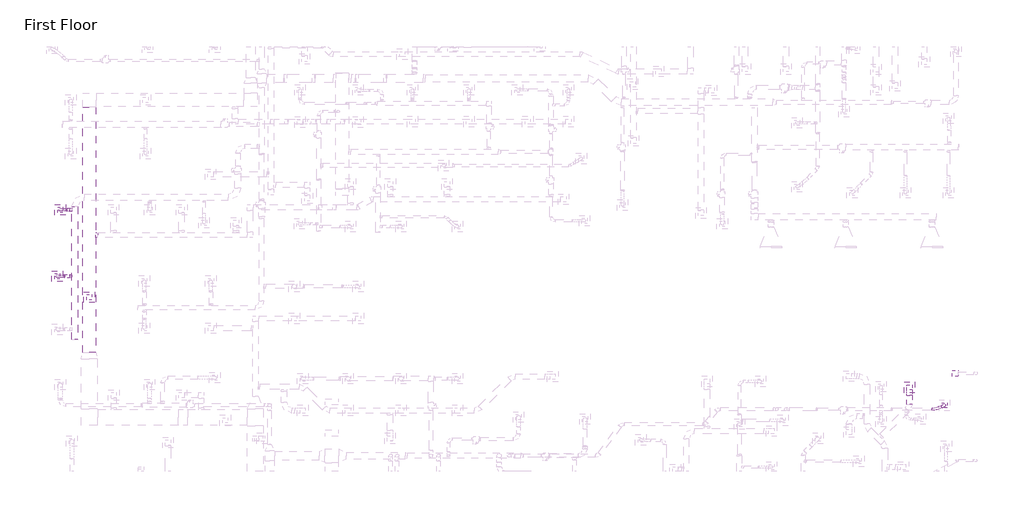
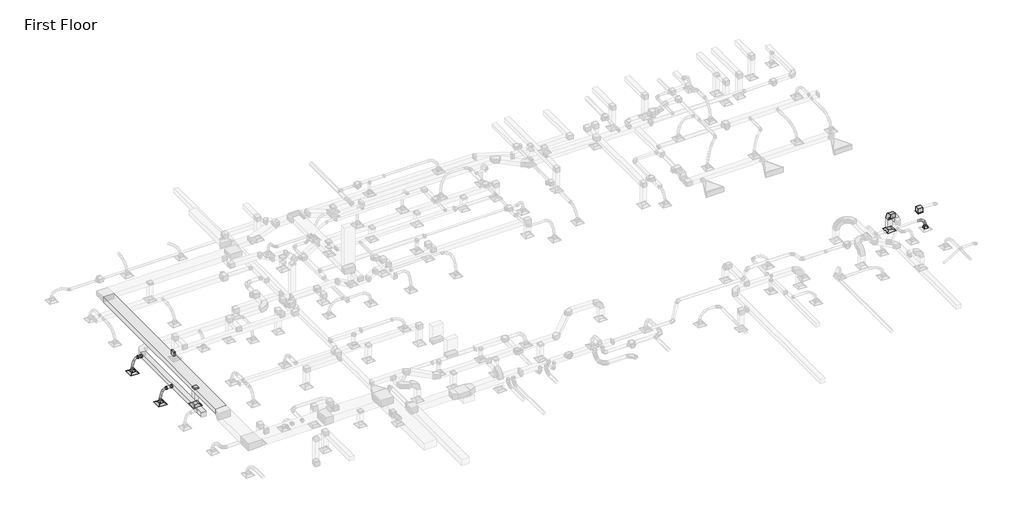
# One storey, part 33 of 61: 10 duct fittings, 10 duct segments, 4 air terminals, 1 proxy.
"""IFC4 building model written with IfcOpenShell, lengths in millimetres."""

from ifc_helpers import new_model, si_unit, point, frame, frame_2d, origin, place, context, project, spatial, polyline, circle_curve, ellipse_curve, trimmed, segment, composite_curve, outline, extrude, transform, mapped, element, save
from ifc_brep_helpers import plane_surface, cylinder_surface, advanced_brep
from components import m_exhaust_grill_er_600_x_600_face_300_x_300_connection_ff221211, proxy_47_84_lps_344db5a5, m_rectangular_elbow_radius_1_5_w_86011e9f, m_rectangular_takeoff_standard_c00386d1, m_rectangular_to_round_transition_angle_45_degree_8f201c83, m_round_takeoff_standard_8efdd074, m_round_transition_angle_45_degree_6d7b59ce

model = new_model("IFC4")

# Units and contexts
model_context = context("Model", 3, world=origin())
ifc_project = project(units=[si_unit("LENGTHUNIT", "METRE", prefix="MILLI")], contexts=[model_context])

# Site, building, storey
site = spatial("IfcSite", under=ifc_project)
building = spatial("IfcBuilding", under=site)
storey = spatial("IfcBuildingStorey", under=building, Name="First Floor", Elevation=0.0)

# Air terminals
placement = place(None, origin())
m_exhaust_grill_er_600_x_600_face_300_x_300_connection_shape = m_exhaust_grill_er_600_x_600_face_300_x_300_connection_ff221211(model_context)
element("IfcAirTerminal", 1, ObjectType="M_Return Register : RR-600 x 600 Face 300 x 300 Connection", at=placement, inside=storey, context=model_context, shape_type="MappedRepresentation", body=[
    mapped(m_exhaust_grill_er_600_x_600_face_300_x_300_connection_shape, transform((-49210.6837723, 32002.8174543, 2680.0), x_axis=(1.0, 0.0, 0.0), y_axis=(0.0, 1.0, 0.0), z_axis=(0.0, 0.0, 1.0))),
])
element("IfcAirTerminal", 2, ObjectType="M_Return Register : RR-600 x 600 Face 300 x 300 Connection", at=placement, inside=storey, context=model_context, shape_type="MappedRepresentation", body=[
    mapped(m_exhaust_grill_er_600_x_600_face_300_x_300_connection_shape, transform((-3119.2454785, 26927.8086629, 2680.0), x_axis=(1.0, 0.0, 0.0), y_axis=(0.0, 1.0, 0.0), z_axis=(0.0, 0.0, 1.0))),
])
element("IfcAirTerminal", 3, ObjectType="M_Supply Diffuser : SD-600 x 600 Face 300 x 300 Connection", at=placement, inside=storey, context=model_context, shape_type="MappedRepresentation", body=[
    mapped(m_exhaust_grill_er_600_x_600_face_300_x_300_connection_shape, transform((-51005.4898522, 33181.7257561, 2680.0), x_axis=(1.0, 0.0, 0.0), y_axis=(0.0, 1.0, 0.0), z_axis=(0.0, 0.0, 1.0))),
])
element("IfcAirTerminal", 4, ObjectType="M_Supply Diffuser : SD-600 x 600 Face 300 x 300 Connection", at=placement, inside=storey, context=model_context, shape_type="MappedRepresentation", body=[
    mapped(m_exhaust_grill_er_600_x_600_face_300_x_300_connection_shape, transform((-50833.4718339, 36905.5458289, 2680.0), x_axis=(1.0, 0.0, 0.0), y_axis=(0.0, 1.0, 0.0), z_axis=(0.0, 0.0, 1.0))),
])

# Proxy
proxy_47_84_lps_shape = proxy_47_84_lps_344db5a5(model_context)
element("IfcBuildingElementProxy", 5, Name="M_Exhaust Unit with Cabinet - Round Connection - Ceiling Mounted : 47-84 LPS", ObjectType="M_Exhaust Unit with Cabinet - Round Connection - Ceiling Mounted : 47-84 LPS", at=placement, inside=storey, context=model_context, shape_type="MappedRepresentation", body=[
    mapped(proxy_47_84_lps_shape, transform((-548.2675607, 27713.6462369, 2680.0), x_axis=(0.0, 1.0000000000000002, 0.0), y_axis=(-1.0000000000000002, 0.0, 0.0), z_axis=(0.0, 0.0, 1.0))),
])

# Duct fittings
m_rectangular_elbow_radius_1_5_w_shape = m_rectangular_elbow_radius_1_5_w_86011e9f(model_context)
element("IfcDuctFitting", 6, ObjectType="M_Rectangular Elbow - Radius : 1.5 W", at=placement, inside=storey, context=model_context, shape_type="MappedRepresentation", body=[
    mapped(m_rectangular_elbow_radius_1_5_w_shape, transform((-3119.2454785, 26927.8086629, 4000.0), x_axis=(0.0, 0.0, 1.0), y_axis=(0.0, -1.0, 0.0), z_axis=(1.0, 0.0, 0.0))),
])
m_rectangular_takeoff_standard_shape = m_rectangular_takeoff_standard_c00386d1(model_context)
element("IfcDuctFitting", 7, ObjectType="M_Rectangular Takeoff : Standard", at=placement, inside=storey, context=model_context, shape_type="MappedRepresentation", body=[
    mapped(m_rectangular_takeoff_standard_shape, transform((-48835.6837723, 35488.5601587, 4259.5), x_axis=(1.0, 0.0, 0.0), y_axis=(0.0, -1.0, 0.0), z_axis=(0.0, 0.0, -1.0))),
])
element("IfcDuctFitting", 8, ObjectType="M_Rectangular Takeoff : Standard", at=placement, inside=storey, context=model_context, shape_type="MappedRepresentation", body=[
    mapped(m_rectangular_takeoff_standard_shape, transform((-49210.6837723, 32002.8174543, 3992.610768), x_axis=(0.0, 0.0, -1.0), y_axis=(-1.0, 0.0, 0.0), z_axis=(0.0, 1.0, 0.0))),
])
m_rectangular_to_round_transition_angle_45_degree_shape = m_rectangular_to_round_transition_angle_45_degree_8f201c83(model_context)
element("IfcDuctFitting", 9, ObjectType="M_Rectangular to Round Transition - Angle : 45 Degree", at=placement, inside=storey, context=model_context, shape_type="MappedRepresentation", body=[
    mapped(m_rectangular_to_round_transition_angle_45_degree_shape, transform((-50833.4718339, 36905.5458289, 2781.6), x_axis=(0.0, 0.0, 1.0), y_axis=(1.0, 0.0, 0.0), z_axis=(0.0, 1.0, 0.0))),
])
element("IfcDuctFitting", 10, ObjectType="M_Rectangular to Round Transition - Angle : 45 Degree", at=placement, inside=storey, context=model_context, shape_type="MappedRepresentation", body=[
    mapped(m_rectangular_to_round_transition_angle_45_degree_shape, transform((-51005.4898522, 33181.7257561, 2781.6), x_axis=(0.0, 0.0, 1.0), y_axis=(1.0, 0.0, 0.0), z_axis=(0.0, 1.0, 0.0))),
])
element("IfcDuctFitting", 11, ObjectType="M_Rectangular to Round Transition - Angle : 45 Degree", at=placement, inside=storey, context=model_context, shape_type="MappedRepresentation", body=[
    mapped(m_rectangular_to_round_transition_angle_45_degree_shape, transform((-1158.5597337, 25915.1292224, 2781.6), x_axis=(0.0, 0.0, 1.0), y_axis=(1.0, 0.0, 0.0), z_axis=(0.0, 1.0, 0.0))),
])
m_round_takeoff_standard_shape = m_round_takeoff_standard_8efdd074(model_context)
element("IfcDuctFitting", 12, ObjectType="M_Round Takeoff : Standard", at=placement, inside=storey, context=model_context, shape_type="MappedRepresentation", body=[
    mapped(m_round_takeoff_standard_shape, transform((-50192.7715879, 33181.7257561, 3669.0), x_axis=(-1.0, 0.0, 0.0), y_axis=(0.0, 1.0, 0.0), z_axis=(0.0, 0.0, -1.0))),
])
element("IfcDuctFitting", 13, ObjectType="M_Round Takeoff : Standard", at=placement, inside=storey, context=model_context, shape_type="MappedRepresentation", body=[
    mapped(m_round_takeoff_standard_shape, transform((-50192.7715879, 36905.5458289, 3669.0), x_axis=(-1.0, 0.0, 0.0), y_axis=(0.0, 1.0, 0.0), z_axis=(0.0, 0.0, -1.0))),
])
m_round_transition_angle_45_degree_shape = m_round_transition_angle_45_degree_6d7b59ce(model_context)
element("IfcDuctFitting", 14, ObjectType="M_Round Transition - Angle : 45 Degree", at=placement, inside=storey, context=model_context, shape_type="MappedRepresentation", body=[
    mapped(m_round_transition_angle_45_degree_shape, transform((-50437.7715879, 36905.5458289, 3669.0), x_axis=(-1.0, 0.0, 0.0), y_axis=(0.0, -1.0, 0.0), z_axis=(0.0, 0.0, 1.0))),
])
element("IfcDuctFitting", 15, ObjectType="M_Round Transition - Angle : 45 Degree", at=placement, inside=storey, context=model_context, shape_type="MappedRepresentation", body=[
    mapped(m_round_transition_angle_45_degree_shape, transform((-50577.7715879, 33181.7257561, 3669.0), x_axis=(-1.0, 0.0, 0.0), y_axis=(0.0, -1.0, 0.0), z_axis=(0.0, 0.0, 1.0))),
])

# Duct segments
element("IfcDuctSegment", 16, ObjectType="Flex - Round", at=placement, inside=storey, context=model_context, shape_type="AdvancedBrep", body=[
    advanced_brep(
    [(-50498.1269269, 36830.5458289, 3669.0), (-50481.9906758, 36905.5458289, 3595.7564242), (-50498.1269269, 36980.5458289, 3669.0), (-50514.263178, 36905.5458289, 3742.2435758), (-50587.3663249, 36830.5458289, 3649.3397183), (-50555.627198, 36905.5458289, 3579.5336033), (-50587.3663249, 36980.5458289, 3649.3397183), (-50619.1054518, 36905.5458289, 3719.1458333), (-50833.4718339, 36830.5458289, 2962.6660172), (-50908.4249862, 36905.5458289, 2965.3164805), (-50833.4718339, 36980.5458289, 2962.6660172), (-50758.5186816, 36905.5458289, 2960.0155539), (-50660.4789227, 36830.5458289, 3595.2867665), (-50606.4471376, 36905.5458289, 3541.9618602), (-50660.4789227, 36980.5458289, 3595.2867665), (-50714.5107078, 36905.5458289, 3648.6116729), (-50718.7679369, 36830.5458289, 3514.2329845), (-50653.3742519, 36905.5458289, 3476.7073667), (-50718.7679369, 36980.5458289, 3514.2329845), (-50784.1616219, 36905.5458289, 3551.7586023), (-50763.536584, 36830.5458289, 3413.5702122), (-50692.9063085, 36905.5458289, 3387.8191232), (-50763.536584, 36980.5458289, 3413.5702122), (-50834.1668596, 36905.5458289, 3439.3213012), (-50796.0880807, 36830.5458289, 3300.6902894), (-50722.9955475, 36905.5458289, 3283.4776542), (-50796.0880807, 36980.5458289, 3300.6902894), (-50869.1806139, 36905.5458289, 3317.9029246), (-50817.7256435, 36830.5458289, 3182.985056), (-50743.4344278, 36905.5458289, 3172.293082), (-50817.7256435, 36980.5458289, 3182.985056), (-50892.0168593, 36905.5458289, 3193.6770301), (-50829.7524891, 36830.5458289, 3067.846352), (-50754.8904571, 36905.5458289, 3062.6190726), (-50829.7524891, 36980.5458289, 3067.846352), (-50904.6145211, 36905.5458289, 3073.0736315)],
    [
        (0, 1, circle_curve(frame((-50498.1269269, 36905.5458289, 3669.0), z_axis=(0.9765810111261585, 0.0, 0.21515001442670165), x_axis=(0.0, -1.0, 0.0)), 75.0)),
        (1, 2, circle_curve(frame((-50498.1269269, 36905.5458289, 3669.0), z_axis=(0.9765810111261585, 0.0, 0.21515001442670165), x_axis=(0.0, -1.0, 0.0)), 75.0)),
        (2, 3, circle_curve(frame((-50498.1269269, 36905.5458289, 3669.0), z_axis=(0.9765810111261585, 0.0, 0.21515001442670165), x_axis=(0.0, -1.0, 0.0)), 75.0)),
        (3, 0, circle_curve(frame((-50498.1269269, 36905.5458289, 3669.0), z_axis=(0.9765810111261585, 0.0, 0.21515001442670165), x_axis=(0.0, -1.0, 0.0)), 75.0)),
        (0, 4),
        (4, 5, ellipse_curve(frame((-50587.3663249, 36905.5458289, 3649.3397183), z_axis=(0.9103218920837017, 0.0, 0.4139010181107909), x_axis=(0.4139010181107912, 0.0, -0.9103218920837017)), 76.6828916, 75.0)),
        (5, 1),
        (5, 6, ellipse_curve(frame((-50587.3663249, 36905.5458289, 3649.3397183), z_axis=(0.9103218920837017, 0.0, 0.4139010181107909), x_axis=(0.4139010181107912, 0.0, -0.9103218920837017)), 76.6828916, 75.0)),
        (6, 2),
        (6, 7, ellipse_curve(frame((-50587.3663249, 36905.5458289, 3649.3397183), z_axis=(0.9103218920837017, 0.0, 0.4139010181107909), x_axis=(0.4139010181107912, 0.0, -0.9103218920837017)), 76.6828916, 75.0)),
        (7, 3),
        (7, 4, ellipse_curve(frame((-50587.3663249, 36905.5458289, 3649.3397183), z_axis=(0.9103218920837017, 0.0, 0.4139010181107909), x_axis=(0.4139010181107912, 0.0, -0.9103218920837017)), 76.6828916, 75.0)),
        (8, 9, circle_curve(frame((-50833.4718339, 36905.5458289, 2962.6660172), z_axis=(-0.03533951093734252, 0.0, -0.9993753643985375), x_axis=(0.0, -1.0, 0.0)), 75.0)),
        (9, 10, circle_curve(frame((-50833.4718339, 36905.5458289, 2962.6660172), z_axis=(-0.03533951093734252, 0.0, -0.9993753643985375), x_axis=(0.0, -1.0, 0.0)), 75.0)),
        (10, 11, circle_curve(frame((-50833.4718339, 36905.5458289, 2962.6660172), z_axis=(-0.03533951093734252, 0.0, -0.9993753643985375), x_axis=(0.0, -1.0, 0.0)), 75.0)),
        (11, 8, circle_curve(frame((-50833.4718339, 36905.5458289, 2962.6660172), z_axis=(-0.03533951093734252, 0.0, -0.9993753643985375), x_axis=(0.0, -1.0, 0.0)), 75.0)),
        (4, 12),
        (12, 13, ellipse_curve(frame((-50660.4789227, 36905.5458289, 3595.2867665), z_axis=(0.7024356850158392, 0.0, 0.7117472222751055), x_axis=(0.711747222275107, 0.0, -0.7024356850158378)), 75.9142901, 75.0)),
        (13, 5),
        (13, 14, ellipse_curve(frame((-50660.4789227, 36905.5458289, 3595.2867665), z_axis=(0.7024356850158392, 0.0, 0.7117472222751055), x_axis=(0.711747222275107, 0.0, -0.7024356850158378)), 75.9142901, 75.0)),
        (14, 6),
        (14, 15, ellipse_curve(frame((-50660.4789227, 36905.5458289, 3595.2867665), z_axis=(0.7024356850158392, 0.0, 0.7117472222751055), x_axis=(0.711747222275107, 0.0, -0.7024356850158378)), 75.9142901, 75.0)),
        (15, 7),
        (15, 12, ellipse_curve(frame((-50660.4789227, 36905.5458289, 3595.2867665), z_axis=(0.7024356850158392, 0.0, 0.7117472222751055), x_axis=(0.711747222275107, 0.0, -0.7024356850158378)), 75.9142901, 75.0)),
        (12, 16),
        (16, 17, ellipse_curve(frame((-50718.7679369, 36905.5458289, 3514.2329845), z_axis=(0.497715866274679, 0.0, 0.8673401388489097), x_axis=(0.8673401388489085, 0.0, -0.49771586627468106)), 75.3956632, 75.0)),
        (17, 13),
        (17, 18, ellipse_curve(frame((-50718.7679369, 36905.5458289, 3514.2329845), z_axis=(0.497715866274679, 0.0, 0.8673401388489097), x_axis=(0.8673401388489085, 0.0, -0.49771586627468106)), 75.3956632, 75.0)),
        (18, 14),
        (18, 19, ellipse_curve(frame((-50718.7679369, 36905.5458289, 3514.2329845), z_axis=(0.497715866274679, 0.0, 0.8673401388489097), x_axis=(0.8673401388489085, 0.0, -0.49771586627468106)), 75.3956632, 75.0)),
        (19, 15),
        (19, 16, ellipse_curve(frame((-50718.7679369, 36905.5458289, 3514.2329845), z_axis=(0.497715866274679, 0.0, 0.8673401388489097), x_axis=(0.8673401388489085, 0.0, -0.49771586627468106)), 75.3956632, 75.0)),
        (16, 20),
        (20, 21, ellipse_curve(frame((-50763.536584, 36905.5458289, 3413.5702122), z_axis=(0.34253421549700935, 0.0, 0.9395053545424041), x_axis=(0.9395053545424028, 0.0, -0.3425342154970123)), 75.1781512, 75.0)),
        (21, 17),
        (21, 22, ellipse_curve(frame((-50763.536584, 36905.5458289, 3413.5702122), z_axis=(0.34253421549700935, 0.0, 0.9395053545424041), x_axis=(0.9395053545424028, 0.0, -0.3425342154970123)), 75.1781512, 75.0)),
        (22, 18),
        (22, 23, ellipse_curve(frame((-50763.536584, 36905.5458289, 3413.5702122), z_axis=(0.34253421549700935, 0.0, 0.9395053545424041), x_axis=(0.9395053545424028, 0.0, -0.3425342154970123)), 75.1781512, 75.0)),
        (23, 19),
        (23, 20, ellipse_curve(frame((-50763.536584, 36905.5458289, 3413.5702122), z_axis=(0.34253421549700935, 0.0, 0.9395053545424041), x_axis=(0.9395053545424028, 0.0, -0.3425342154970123)), 75.1781512, 75.0)),
        (20, 24),
        (24, 25, ellipse_curve(frame((-50796.0880807, 36905.5458289, 3300.6902894), z_axis=(0.22922093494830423, 0.0, 0.9733744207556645), x_axis=(0.9733744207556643, 0.0, -0.229220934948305)), 75.0918985, 75.0)),
        (25, 21),
        (25, 26, ellipse_curve(frame((-50796.0880807, 36905.5458289, 3300.6902894), z_axis=(0.22922093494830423, 0.0, 0.9733744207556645), x_axis=(0.9733744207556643, 0.0, -0.229220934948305)), 75.0918985, 75.0)),
        (26, 22),
        (26, 27, ellipse_curve(frame((-50796.0880807, 36905.5458289, 3300.6902894), z_axis=(0.22922093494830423, 0.0, 0.9733744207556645), x_axis=(0.9733744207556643, 0.0, -0.229220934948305)), 75.0918985, 75.0)),
        (27, 23),
        (27, 24, ellipse_curve(frame((-50796.0880807, 36905.5458289, 3300.6902894), z_axis=(0.22922093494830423, 0.0, 0.9733744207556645), x_axis=(0.9733744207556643, 0.0, -0.229220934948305)), 75.0918985, 75.0)),
        (24, 28),
        (28, 29, ellipse_curve(frame((-50817.7256435, 36905.5458289, 3182.985056), z_axis=(0.14245202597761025, 0.0, 0.9898017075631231), x_axis=(0.9898017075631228, 0.0, -0.1424520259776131)), 75.0566656, 75.0)),
        (29, 25),
        (29, 30, ellipse_curve(frame((-50817.7256435, 36905.5458289, 3182.985056), z_axis=(0.14245202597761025, 0.0, 0.9898017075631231), x_axis=(0.9898017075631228, 0.0, -0.1424520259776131)), 75.0566656, 75.0)),
        (30, 26),
        (30, 31, ellipse_curve(frame((-50817.7256435, 36905.5458289, 3182.985056), z_axis=(0.14245202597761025, 0.0, 0.9898017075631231), x_axis=(0.9898017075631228, 0.0, -0.1424520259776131)), 75.0566656, 75.0)),
        (31, 27),
        (31, 28, ellipse_curve(frame((-50817.7256435, 36905.5458289, 3182.985056), z_axis=(0.14245202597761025, 0.0, 0.9898017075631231), x_axis=(0.9898017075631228, 0.0, -0.1424520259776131)), 75.0566656, 75.0)),
        (28, 32),
        (32, 33, ellipse_curve(frame((-50829.7524891, 36905.5458289, 3067.846352), z_axis=(0.06965590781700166, 0.0, 0.9975710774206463), x_axis=(0.9975710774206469, 1.1434014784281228e-12, -0.06965590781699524)), 75.0443088, 75.0)),
        (33, 29),
        (33, 34, ellipse_curve(frame((-50829.7524891, 36905.5458289, 3067.846352), z_axis=(0.06965590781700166, 0.0, 0.9975710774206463), x_axis=(0.9975710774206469, 1.1434014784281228e-12, -0.06965590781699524)), 75.0443088, 75.0)),
        (34, 30),
        (34, 35, ellipse_curve(frame((-50829.7524891, 36905.5458289, 3067.846352), z_axis=(0.06965590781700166, 0.0, 0.9975710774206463), x_axis=(0.9975710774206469, 1.1434014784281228e-12, -0.06965590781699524)), 75.0443088, 75.0)),
        (35, 31),
        (35, 32, ellipse_curve(frame((-50829.7524891, 36905.5458289, 3067.846352), z_axis=(0.06965590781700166, 0.0, 0.9975710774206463), x_axis=(0.9975710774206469, 1.1434014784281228e-12, -0.06965590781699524)), 75.0443088, 75.0)),
        (32, 8),
        (11, 33),
        (10, 34),
        (9, 35),
    ],
    [
        plane_surface(frame((-50498.1269269, 36980.5458289, 3669.0), z_axis=(0.9765810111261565, 0.0, 0.2151500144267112), x_axis=(0.2151500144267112, 0.0, -0.9765810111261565))),
        cylinder_surface(frame((-50498.1269269, 36905.5458289, 3669.0), z_axis=(0.9765810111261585, 0.0, 0.21515001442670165), x_axis=(0.0, -1.0, 0.0)), 75.0),
        plane_surface(frame((-50833.4718339, 36980.5458289, 2962.6660172), z_axis=(-0.03533951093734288, 0.0, -0.9993753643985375), x_axis=(0.9993753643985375, 0.0, -0.03533951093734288))),
        cylinder_surface(frame((-50587.3663249, 36905.5458289, 3649.3397183), z_axis=(0.8041067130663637, 0.0, 0.5944849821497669), x_axis=(0.0, -1.0, 0.0)), 75.0),
        cylinder_surface(frame((-50660.4789227, 36905.5458289, 3595.2867665), z_axis=(0.5838447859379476, 0.0, 0.8118653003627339), x_axis=(0.0, -1.0, 0.0)), 75.0),
        cylinder_surface(frame((-50718.7679369, 36905.5458289, 3514.2329845), z_axis=(0.40636309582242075, 0.0, 0.9137116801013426), x_axis=(0.0, -1.0, 0.0)), 75.0),
        cylinder_surface(frame((-50763.536584, 36905.5458289, 3413.5702122), z_axis=(0.2770819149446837, 0.0, 0.9608463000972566), x_axis=(0.0, -1.0, 0.0)), 75.0),
        cylinder_surface(frame((-50796.0880807, 36905.5458289, 3300.6902894), z_axis=(0.18079890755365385, 0.0, 0.9835200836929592), x_axis=(0.0, -1.0, 0.0)), 75.0),
        cylinder_surface(frame((-50817.7256435, 36905.5458289, 3182.985056), z_axis=(0.10389005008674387, 0.0, 0.9945887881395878), x_axis=(0.0, -1.0, 0.0)), 75.0),
        cylinder_surface(frame((-50829.7524891, 36905.5458289, 3067.846352), z_axis=(0.03533951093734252, 0.0, 0.9993753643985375), x_axis=(0.0, -1.0, 0.0)), 75.0),
    ],
    [
        (0, [[1, 2, 3, 4]]),
        (1, [[-1, 5, 6, 7]]),
        (1, [[-2, -7, 8, 9]]),
        (1, [[-3, -9, 10, 11]]),
        (1, [[-4, -11, 12, -5]]),
        (2, [[13, 14, 15, 16]]),
        (3, [[-6, 17, 18, 19]]),
        (3, [[-8, -19, 20, 21]]),
        (3, [[-10, -21, 22, 23]]),
        (3, [[-12, -23, 24, -17]]),
        (4, [[-18, 25, 26, 27]]),
        (4, [[-20, -27, 28, 29]]),
        (4, [[-22, -29, 30, 31]]),
        (4, [[-24, -31, 32, -25]]),
        (5, [[-26, 33, 34, 35]]),
        (5, [[-28, -35, 36, 37]]),
        (5, [[-30, -37, 38, 39]]),
        (5, [[-32, -39, 40, -33]]),
        (6, [[-34, 41, 42, 43]]),
        (6, [[-36, -43, 44, 45]]),
        (6, [[-38, -45, 46, 47]]),
        (6, [[-40, -47, 48, -41]]),
        (7, [[-42, 49, 50, 51]]),
        (7, [[-44, -51, 52, 53]]),
        (7, [[-46, -53, 54, 55]]),
        (7, [[-48, -55, 56, -49]]),
        (8, [[-50, 57, 58, 59]]),
        (8, [[-52, -59, 60, 61]]),
        (8, [[-54, -61, 62, 63]]),
        (8, [[-56, -63, 64, -57]]),
        (9, [[-58, 65, -16, 66]]),
        (9, [[-60, -66, -15, 67]]),
        (9, [[-62, -67, -14, 68]]),
        (9, [[-64, -68, -13, -65]]),
    ],
),
])
element("IfcDuctSegment", 17, ObjectType="Flex - Round", at=placement, inside=storey, context=model_context, shape_type="AdvancedBrep", body=[
    advanced_brep(
    [(-50638.1269269, 33106.7257561, 3669.0), (-50622.5988368, 33181.7257561, 3595.6250832), (-50638.1269269, 33256.7257561, 3669.0), (-50653.6550171, 33181.7257561, 3742.3749168), (-50730.1066, 33106.7257561, 3649.534647), (-50699.816517, 33181.7257561, 3579.2837618), (-50730.1066, 33256.7257561, 3649.534647), (-50760.396683, 33181.7257561, 3719.7855323), (-51005.4898522, 33106.7257561, 2962.6660172), (-51080.4106561, 33181.7257561, 2966.1117609), (-51005.4898522, 33256.7257561, 2962.6660172), (-50930.5690484, 33181.7257561, 2959.2202734), (-50807.4867189, 33106.7257561, 3595.9550935), (-50755.5635893, 33181.7257561, 3540.6833656), (-50807.4867189, 33256.7257561, 3595.9550935), (-50859.4098485, 33181.7257561, 3651.2268213), (-50870.9871597, 33106.7257561, 3515.4860975), (-50807.3967874, 33181.7257561, 3474.9993269), (-50870.9871597, 33256.7257561, 3515.4860975), (-50934.5775319, 33181.7257561, 3555.9728682), (-50921.3277983, 33106.7257561, 3415.3524174), (-50851.9389807, 33181.7257561, 3386.3994629), (-50921.3277983, 33256.7257561, 3415.3524174), (-50990.7166159, 33181.7257561, 3444.3053719), (-50959.2285109, 33106.7257561, 3302.7788111), (-50886.8788124, 33181.7257561, 3282.6203363), (-50959.2285109, 33256.7257561, 3302.7788111), (-51031.5782095, 33181.7257561, 3322.9372858), (-50985.4091734, 33106.7257561, 3184.9900369), (-50911.4766047, 33181.7257561, 3171.9530141), (-50985.4091734, 33256.7257561, 3184.9900369), (-51059.3417421, 33181.7257561, 3198.0270596), (-51000.5896619, 33106.7257561, 3069.2108528), (-50925.8143768, 33181.7257561, 3062.6010948), (-51000.5896619, 33256.7257561, 3069.2108528), (-51075.3649469, 33181.7257561, 3075.8206109)],
    [
        (0, 1, circle_curve(frame((-50638.1269269, 33181.7257561, 3669.0), z_axis=(0.9783322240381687, 0.0, 0.20704120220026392), x_axis=(0.0, -1.0, 0.0)), 75.0)),
        (1, 2, circle_curve(frame((-50638.1269269, 33181.7257561, 3669.0), z_axis=(0.9783322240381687, 0.0, 0.20704120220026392), x_axis=(0.0, -1.0, 0.0)), 75.0)),
        (2, 3, circle_curve(frame((-50638.1269269, 33181.7257561, 3669.0), z_axis=(0.9783322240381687, 0.0, 0.20704120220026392), x_axis=(0.0, -1.0, 0.0)), 75.0)),
        (3, 0, circle_curve(frame((-50638.1269269, 33181.7257561, 3669.0), z_axis=(0.9783322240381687, 0.0, 0.20704120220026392), x_axis=(0.0, -1.0, 0.0)), 75.0)),
        (0, 4),
        (4, 5, ellipse_curve(frame((-50730.1066, 33181.7257561, 3649.534647), z_axis=(0.9182788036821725, 0.0, 0.3959343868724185), x_axis=(0.3959343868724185, 0.0, -0.9182788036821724)), 76.5027843, 75.0)),
        (5, 1),
        (5, 6, ellipse_curve(frame((-50730.1066, 33181.7257561, 3649.534647), z_axis=(0.9182788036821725, 0.0, 0.3959343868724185), x_axis=(0.3959343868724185, 0.0, -0.9182788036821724)), 76.5027843, 75.0)),
        (6, 2),
        (6, 7, ellipse_curve(frame((-50730.1066, 33181.7257561, 3649.534647), z_axis=(0.9182788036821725, 0.0, 0.3959343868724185), x_axis=(0.3959343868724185, 0.0, -0.9182788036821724)), 76.5027843, 75.0)),
        (7, 3),
        (7, 4, ellipse_curve(frame((-50730.1066, 33181.7257561, 3649.534647), z_axis=(0.9182788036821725, 0.0, 0.3959343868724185), x_axis=(0.3959343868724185, 0.0, -0.9182788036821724)), 76.5027843, 75.0)),
        (8, 9, circle_curve(frame((-51005.4898522, 33181.7257561, 2962.6660172), z_axis=(-0.04594324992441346, 0.0, -0.9989440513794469), x_axis=(0.0, -1.0, 0.0)), 75.0)),
        (9, 10, circle_curve(frame((-51005.4898522, 33181.7257561, 2962.6660172), z_axis=(-0.04594324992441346, 0.0, -0.9989440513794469), x_axis=(0.0, -1.0, 0.0)), 75.0)),
        (10, 11, circle_curve(frame((-51005.4898522, 33181.7257561, 2962.6660172), z_axis=(-0.04594324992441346, 0.0, -0.9989440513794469), x_axis=(0.0, -1.0, 0.0)), 75.0)),
        (11, 8, circle_curve(frame((-51005.4898522, 33181.7257561, 2962.6660172), z_axis=(-0.04594324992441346, 0.0, -0.9989440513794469), x_axis=(0.0, -1.0, 0.0)), 75.0)),
        (4, 12),
        (12, 13, ellipse_curve(frame((-50807.4867189, 33181.7257561, 3595.9550935), z_axis=(0.7288401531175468, 0.0, 0.684683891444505), x_axis=(0.6846838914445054, 0.0, -0.7288401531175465)), 75.835185, 75.0)),
        (13, 5),
        (13, 14, ellipse_curve(frame((-50807.4867189, 33181.7257561, 3595.9550935), z_axis=(0.7288401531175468, 0.0, 0.684683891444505), x_axis=(0.6846838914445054, 0.0, -0.7288401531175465)), 75.835185, 75.0)),
        (14, 6),
        (14, 15, ellipse_curve(frame((-50807.4867189, 33181.7257561, 3595.9550935), z_axis=(0.7288401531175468, 0.0, 0.684683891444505), x_axis=(0.6846838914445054, 0.0, -0.7288401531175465)), 75.835185, 75.0)),
        (15, 7),
        (15, 12, ellipse_curve(frame((-50807.4867189, 33181.7257561, 3595.9550935), z_axis=(0.7288401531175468, 0.0, 0.684683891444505), x_axis=(0.6846838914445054, 0.0, -0.7288401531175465)), 75.835185, 75.0)),
        (12, 16),
        (16, 17, ellipse_curve(frame((-50870.9871597, 33181.7257561, 3515.4860975), z_axis=(0.5370659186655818, 0.0, 0.8435402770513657), x_axis=(0.8435402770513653, 0.0, -0.5370659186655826)), 75.3851049, 75.0)),
        (17, 13),
        (17, 18, ellipse_curve(frame((-50870.9871597, 33181.7257561, 3515.4860975), z_axis=(0.5370659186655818, 0.0, 0.8435402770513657), x_axis=(0.8435402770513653, 0.0, -0.5370659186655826)), 75.3851049, 75.0)),
        (18, 14),
        (18, 19, ellipse_curve(frame((-50870.9871597, 33181.7257561, 3515.4860975), z_axis=(0.5370659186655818, 0.0, 0.8435402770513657), x_axis=(0.8435402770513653, 0.0, -0.5370659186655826)), 75.3851049, 75.0)),
        (19, 15),
        (19, 16, ellipse_curve(frame((-50870.9871597, 33181.7257561, 3515.4860975), z_axis=(0.5370659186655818, 0.0, 0.8435402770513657), x_axis=(0.8435402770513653, 0.0, -0.5370659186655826)), 75.3851049, 75.0)),
        (16, 20),
        (20, 21, ellipse_curve(frame((-50921.3277983, 33181.7257561, 3415.3524174), z_axis=(0.3850793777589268, 0.0, 0.9228834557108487), x_axis=(0.9228834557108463, 0.0, -0.38507937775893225)), 75.1869775, 75.0)),
        (21, 17),
        (21, 22, ellipse_curve(frame((-50921.3277983, 33181.7257561, 3415.3524174), z_axis=(0.3850793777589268, 0.0, 0.9228834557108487), x_axis=(0.9228834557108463, 0.0, -0.38507937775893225)), 75.1869775, 75.0)),
        (22, 18),
        (22, 23, ellipse_curve(frame((-50921.3277983, 33181.7257561, 3415.3524174), z_axis=(0.3850793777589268, 0.0, 0.9228834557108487), x_axis=(0.9228834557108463, 0.0, -0.38507937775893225)), 75.1869775, 75.0)),
        (23, 19),
        (23, 20, ellipse_curve(frame((-50921.3277983, 33181.7257561, 3415.3524174), z_axis=(0.3850793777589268, 0.0, 0.9228834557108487), x_axis=(0.9228834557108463, 0.0, -0.38507937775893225)), 75.1869775, 75.0)),
        (20, 24),
        (24, 25, ellipse_curve(frame((-50959.2285109, 33181.7257561, 3302.7788111), z_axis=(0.26840194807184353, 0.0, 0.9633070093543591), x_axis=(0.9633070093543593, 0.0, -0.26840194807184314)), 75.1055456, 75.0)),
        (25, 21),
        (25, 26, ellipse_curve(frame((-50959.2285109, 33181.7257561, 3302.7788111), z_axis=(0.26840194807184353, 0.0, 0.9633070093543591), x_axis=(0.9633070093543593, 0.0, -0.26840194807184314)), 75.1055456, 75.0)),
        (26, 22),
        (26, 27, ellipse_curve(frame((-50959.2285109, 33181.7257561, 3302.7788111), z_axis=(0.26840194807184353, 0.0, 0.9633070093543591), x_axis=(0.9633070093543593, 0.0, -0.26840194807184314)), 75.1055456, 75.0)),
        (27, 23),
        (27, 24, ellipse_curve(frame((-50959.2285109, 33181.7257561, 3302.7788111), z_axis=(0.26840194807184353, 0.0, 0.9633070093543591), x_axis=(0.9633070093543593, 0.0, -0.26840194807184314)), 75.1055456, 75.0)),
        (24, 28),
        (28, 29, ellipse_curve(frame((-50985.4091734, 33181.7257561, 3184.9900369), z_axis=(0.17365742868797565, 0.0, 0.9848061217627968), x_axis=(0.9848061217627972, 0.0, -0.1736574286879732)), 75.0732221, 75.0)),
        (29, 25),
        (29, 30, ellipse_curve(frame((-50985.4091734, 33181.7257561, 3184.9900369), z_axis=(0.17365742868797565, 0.0, 0.9848061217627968), x_axis=(0.9848061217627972, 0.0, -0.1736574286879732)), 75.0732221, 75.0)),
        (30, 26),
        (30, 31, ellipse_curve(frame((-50985.4091734, 33181.7257561, 3184.9900369), z_axis=(0.17365742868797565, 0.0, 0.9848061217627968), x_axis=(0.9848061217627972, 0.0, -0.1736574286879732)), 75.0732221, 75.0)),
        (31, 27),
        (31, 28, ellipse_curve(frame((-50985.4091734, 33181.7257561, 3184.9900369), z_axis=(0.17365742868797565, 0.0, 0.9848061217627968), x_axis=(0.9848061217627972, 0.0, -0.1736574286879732)), 75.0732221, 75.0)),
        (28, 32),
        (32, 33, ellipse_curve(frame((-51000.5896619, 33181.7257561, 3069.2108528), z_axis=(0.08805162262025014, 0.0, 0.996115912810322), x_axis=(0.9961159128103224, 0.0, -0.08805162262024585)), 75.0668513, 75.0)),
        (33, 29),
        (33, 34, ellipse_curve(frame((-51000.5896619, 33181.7257561, 3069.2108528), z_axis=(0.08805162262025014, 0.0, 0.996115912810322), x_axis=(0.9961159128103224, 0.0, -0.08805162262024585)), 75.0668513, 75.0)),
        (34, 30),
        (34, 35, ellipse_curve(frame((-51000.5896619, 33181.7257561, 3069.2108528), z_axis=(0.08805162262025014, 0.0, 0.996115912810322), x_axis=(0.9961159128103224, 0.0, -0.08805162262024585)), 75.0668513, 75.0)),
        (35, 31),
        (35, 32, ellipse_curve(frame((-51000.5896619, 33181.7257561, 3069.2108528), z_axis=(0.08805162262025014, 0.0, 0.996115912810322), x_axis=(0.9961159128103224, 0.0, -0.08805162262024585)), 75.0668513, 75.0)),
        (32, 8),
        (11, 33),
        (10, 34),
        (9, 35),
    ],
    [
        plane_surface(frame((-50638.1269269, 33256.7257561, 3669.0), z_axis=(0.9783322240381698, 0.0, 0.20704120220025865), x_axis=(0.20704120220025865, 0.0, -0.9783322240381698))),
        cylinder_surface(frame((-50638.1269269, 33181.7257561, 3669.0), z_axis=(0.9783322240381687, 0.0, 0.20704120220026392), x_axis=(0.0, -1.0, 0.0)), 75.0),
        plane_surface(frame((-51005.4898522, 33256.7257561, 2962.6660172), z_axis=(-0.04594324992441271, 0.0, -0.998944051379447), x_axis=(0.998944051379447, 0.0, -0.04594324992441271))),
        cylinder_surface(frame((-50730.1066, 33181.7257561, 3649.534647), z_axis=(0.8221489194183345, 0.0, 0.5692724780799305), x_axis=(0.0, -1.0, 0.0)), 75.0),
        cylinder_surface(frame((-50807.4867189, 33181.7257561, 3595.9550935), z_axis=(0.619477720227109, 0.0, 0.7850142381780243), x_axis=(0.0, -1.0, 0.0)), 75.0),
        cylinder_surface(frame((-50870.9871597, 33181.7257561, 3515.4860975), z_axis=(0.4491669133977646, 0.0, 0.8934478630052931), x_axis=(0.0, -1.0, 0.0)), 75.0),
        cylinder_surface(frame((-50921.3277983, 33181.7257561, 3415.3524174), z_axis=(0.31907658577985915, 0.0, 0.947728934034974), x_axis=(0.0, -1.0, 0.0)), 75.0),
        cylinder_surface(frame((-50959.2285109, 33181.7257561, 3302.7788111), z_axis=(0.21697294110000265, 0.0, 0.9761776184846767), x_axis=(0.0, -1.0, 0.0)), 75.0),
        cylinder_surface(frame((-50985.4091734, 33181.7257561, 3184.9900369), z_axis=(0.1300031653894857, 0.0, 0.9915135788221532), x_axis=(0.0, -1.0, 0.0)), 75.0),
        cylinder_surface(frame((-51000.5896619, 33181.7257561, 3069.2108528), z_axis=(0.04594324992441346, 0.0, 0.9989440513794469), x_axis=(0.0, -1.0, 0.0)), 75.0),
    ],
    [
        (0, [[1, 2, 3, 4]]),
        (1, [[-1, 5, 6, 7]]),
        (1, [[-2, -7, 8, 9]]),
        (1, [[-3, -9, 10, 11]]),
        (1, [[-4, -11, 12, -5]]),
        (2, [[13, 14, 15, 16]]),
        (3, [[-6, 17, 18, 19]]),
        (3, [[-8, -19, 20, 21]]),
        (3, [[-10, -21, 22, 23]]),
        (3, [[-12, -23, 24, -17]]),
        (4, [[-18, 25, 26, 27]]),
        (4, [[-20, -27, 28, 29]]),
        (4, [[-22, -29, 30, 31]]),
        (4, [[-24, -31, 32, -25]]),
        (5, [[-26, 33, 34, 35]]),
        (5, [[-28, -35, 36, 37]]),
        (5, [[-30, -37, 38, 39]]),
        (5, [[-32, -39, 40, -33]]),
        (6, [[-34, 41, 42, 43]]),
        (6, [[-36, -43, 44, 45]]),
        (6, [[-38, -45, 46, 47]]),
        (6, [[-40, -47, 48, -41]]),
        (7, [[-42, 49, 50, 51]]),
        (7, [[-44, -51, 52, 53]]),
        (7, [[-46, -53, 54, 55]]),
        (7, [[-48, -55, 56, -49]]),
        (8, [[-50, 57, 58, 59]]),
        (8, [[-52, -59, 60, 61]]),
        (8, [[-54, -61, 62, 63]]),
        (8, [[-56, -63, 64, -57]]),
        (9, [[-58, 65, -16, 66]]),
        (9, [[-60, -66, -15, 67]]),
        (9, [[-62, -67, -14, 68]]),
        (9, [[-64, -68, -13, -65]]),
    ],
),
])
element("IfcDuctSegment", 18, ObjectType="Flex - Round", at=placement, inside=storey, context=model_context, shape_type="AdvancedBrep", body=[
    advanced_brep(
    [(-1852.1245407, 25773.8800739, 3619.1), (-1855.4372056, 25698.4161113, 3544.6405036), (-1840.8250299, 25624.3062759, 3619.1), (-1837.512365, 25699.7702384, 3693.5594964), (-1733.622682, 25782.8322637, 3604.7549572), (-1740.2914507, 25707.1147653, 3530.7017283), (-1713.5704997, 25633.9196838, 3603.6954173), (-1706.901731, 25709.6371823, 3677.7486462), (-1180.3207378, 25986.8567451, 2965.2391822), (-1087.4719039, 25936.2976116, 2973.7754617), (-1136.7987295, 25843.4016996, 2960.0928521), (-1229.6475634, 25893.9608331, 2951.5565726), (-1618.6683519, 25805.9427451, 3565.1066439), (-1631.8058365, 25728.9247724, 3493.2845069), (-1585.0631606, 25659.7548695, 3559.3726046), (-1571.9256761, 25736.7728422, 3631.1947417), (-1506.679802, 25839.3782434, 3502.1600685), (-1526.2190451, 25760.4489504, 3433.9362349), (-1465.277062, 25695.5184177, 3492.0431795), (-1445.7378189, 25774.4477106, 3560.2670131), (-1403.2914243, 25878.3034502, 3419.3963767), (-1429.4585438, 25796.878795, 3356.4782411), (-1357.970113, 25735.918947, 3406.1426222), (-1331.8029935, 25817.3436022, 3469.0607578), (-1313.7919755, 25917.6967681, 3320.5051079), (-1347.068004, 25833.1431158, 3265.4418702), (-1267.2458577, 25775.8513653, 3305.8980192), (-1233.9698292, 25860.4050176, 3360.9612568), (-1243.2535326, 25952.4730621, 3209.0933585), (-1284.0709605, 25864.2014099, 3165.9413633), (-1197.4245202, 25810.2741178, 3195.6188999), (-1156.6070923, 25898.5457699, 3238.7708951), (-1196.7876498, 25977.4370014, 3088.5574839), (-1244.6036031, 25885.4053698, 3063.5601718), (-1152.7868474, 25834.2558455, 3079.825535), (-1104.9708942, 25926.2874771, 3104.8228471)],
    [
        (0, 1, circle_curve(frame((-1846.4747853, 25699.0931749, 3619.1), z_axis=(-0.9899724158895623, -0.07478718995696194, 0.11983944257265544), x_axis=(-0.07533007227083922, 0.9971586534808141, 0.0)), 75.0)),
        (1, 2, circle_curve(frame((-1846.4747853, 25699.0931749, 3619.1), z_axis=(-0.9899724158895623, -0.07478718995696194, 0.11983944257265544), x_axis=(-0.07533007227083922, 0.9971586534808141, 0.0)), 75.0)),
        (2, 3, circle_curve(frame((-1846.4747853, 25699.0931749, 3619.1), z_axis=(-0.9899724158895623, -0.07478718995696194, 0.11983944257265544), x_axis=(-0.07533007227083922, 0.9971586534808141, 0.0)), 75.0)),
        (3, 0, circle_curve(frame((-1846.4747853, 25699.0931749, 3619.1), z_axis=(-0.9899724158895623, -0.07478718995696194, 0.11983944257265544), x_axis=(-0.07533007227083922, 0.9971586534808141, 0.0)), 75.0)),
        (0, 4),
        (4, 5, ellipse_curve(frame((-1723.5965909, 25708.3759738, 3604.2251872), z_axis=(-0.9661938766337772, -0.13168225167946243, 0.22165102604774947), x_axis=(-0.2577295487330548, 0.4709883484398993, -0.8436500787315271)), 75.5350931, 75.0)),
        (5, 1),
        (5, 6, ellipse_curve(frame((-1723.5965909, 25708.3759738, 3604.2251872), z_axis=(-0.9661938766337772, -0.13168225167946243, 0.22165102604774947), x_axis=(-0.2577295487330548, 0.4709883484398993, -0.8436500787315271)), 75.5350931, 75.0)),
        (6, 2),
        (6, 7, ellipse_curve(frame((-1723.5965909, 25708.3759738, 3604.2251872), z_axis=(-0.9661938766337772, -0.13168225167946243, 0.22165102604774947), x_axis=(-0.2577295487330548, 0.4709883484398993, -0.8436500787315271)), 75.5350931, 75.0)),
        (7, 3),
        (7, 4, ellipse_curve(frame((-1723.5965909, 25708.3759738, 3604.2251872), z_axis=(-0.9661938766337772, -0.13168225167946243, 0.22165102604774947), x_axis=(-0.2577295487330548, 0.4709883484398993, -0.8436500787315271)), 75.5350931, 75.0)),
        (8, 9, circle_curve(frame((-1158.5597337, 25915.1292224, 2962.6660172), z_axis=(0.13197923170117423, 0.07549749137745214, -0.9883732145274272), x_axis=(-0.29014672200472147, 0.9563669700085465, 0.03430886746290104)), 75.0)),
        (9, 10, circle_curve(frame((-1158.5597337, 25915.1292224, 2962.6660172), z_axis=(0.13197923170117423, 0.07549749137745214, -0.9883732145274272), x_axis=(-0.29014672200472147, 0.9563669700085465, 0.03430886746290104)), 75.0)),
        (10, 11, circle_curve(frame((-1158.5597337, 25915.1292224, 2962.6660172), z_axis=(0.13197923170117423, 0.07549749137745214, -0.9883732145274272), x_axis=(-0.29014672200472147, 0.9563669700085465, 0.03430886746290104)), 75.0)),
        (11, 8, circle_curve(frame((-1158.5597337, 25915.1292224, 2962.6660172), z_axis=(0.13197923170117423, 0.07549749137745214, -0.9883732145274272), x_axis=(-0.29014672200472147, 0.9563669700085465, 0.03430886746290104)), 75.0)),
        (4, 12),
        (12, 13, ellipse_curve(frame((-1601.8657563, 25732.8488073, 3562.2396243), z_axis=(-0.890097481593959, -0.2202634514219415, 0.39901188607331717), x_axis=(-0.4538239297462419, 0.34750704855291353, -0.8205380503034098)), 75.3318354, 75.0)),
        (13, 5),
        (13, 14, ellipse_curve(frame((-1601.8657563, 25732.8488073, 3562.2396243), z_axis=(-0.890097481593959, -0.2202634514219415, 0.39901188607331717), x_axis=(-0.4538239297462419, 0.34750704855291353, -0.8205380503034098)), 75.3318354, 75.0)),
        (14, 6),
        (14, 15, ellipse_curve(frame((-1601.8657563, 25732.8488073, 3562.2396243), z_axis=(-0.890097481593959, -0.2202634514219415, 0.39901188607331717), x_axis=(-0.4538239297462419, 0.34750704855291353, -0.8205380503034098)), 75.3318354, 75.0)),
        (15, 7),
        (15, 12, ellipse_curve(frame((-1601.8657563, 25732.8488073, 3562.2396243), z_axis=(-0.890097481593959, -0.2202634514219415, 0.39901188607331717), x_axis=(-0.4538239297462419, 0.34750704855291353, -0.8205380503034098)), 75.3318354, 75.0)),
        (12, 16),
        (16, 17, ellipse_curve(frame((-1485.978432, 25767.4483305, 3497.101624), z_axis=(-0.7988682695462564, -0.26779097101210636, 0.5386069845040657), x_axis=(-0.5916368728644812, 0.1882821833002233, -0.7839104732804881)), 75.2410234, 75.0)),
        (17, 13),
        (17, 18, ellipse_curve(frame((-1485.978432, 25767.4483305, 3497.101624), z_axis=(-0.7988682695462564, -0.26779097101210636, 0.5386069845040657), x_axis=(-0.5916368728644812, 0.1882821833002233, -0.7839104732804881)), 75.2410234, 75.0)),
        (18, 14),
        (18, 19, ellipse_curve(frame((-1485.978432, 25767.4483305, 3497.101624), z_axis=(-0.7988682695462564, -0.26779097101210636, 0.5386069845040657), x_axis=(-0.5916368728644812, 0.1882821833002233, -0.7839104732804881)), 75.2410234, 75.0)),
        (19, 15),
        (19, 16, ellipse_curve(frame((-1485.978432, 25767.4483305, 3497.101624), z_axis=(-0.7988682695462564, -0.26779097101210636, 0.5386069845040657), x_axis=(-0.5916368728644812, 0.1882821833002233, -0.7839104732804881)), 75.2410234, 75.0)),
        (16, 20),
        (20, 21, ellipse_curve(frame((-1380.6307686, 25807.1111986, 3412.7694994), z_axis=(-0.6983247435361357, -0.28345910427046, 0.6572621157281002), x_axis=(-0.6871201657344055, 0.008233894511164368, -0.726497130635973)), 75.2217853, 75.0)),
        (21, 17),
        (21, 22, ellipse_curve(frame((-1380.6307686, 25807.1111986, 3412.7694994), z_axis=(-0.6983247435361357, -0.28345910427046, 0.6572621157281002), x_axis=(-0.6871201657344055, 0.008233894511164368, -0.726497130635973)), 75.2217853, 75.0)),
        (22, 18),
        (22, 23, ellipse_curve(frame((-1380.6307686, 25807.1111986, 3412.7694994), z_axis=(-0.6983247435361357, -0.28345910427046, 0.6572621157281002), x_axis=(-0.6871201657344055, 0.008233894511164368, -0.726497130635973)), 75.2217853, 75.0)),
        (23, 19),
        (23, 20, ellipse_curve(frame((-1380.6307686, 25807.1111986, 3412.7694994), z_axis=(-0.6983247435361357, -0.28345910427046, 0.6572621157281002), x_axis=(-0.6871201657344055, 0.008233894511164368, -0.726497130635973)), 75.2217853, 75.0)),
        (20, 24),
        (24, 25, ellipse_curve(frame((-1290.5189166, 25846.7740667, 3313.2015635), z_axis=(-0.5824322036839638, -0.270077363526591, 0.7667013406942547), x_axis=(-0.7552787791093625, -0.16892466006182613, -0.6332601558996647)), 75.2635172, 75.0)),
        (25, 21),
        (25, 26, ellipse_curve(frame((-1290.5189166, 25846.7740667, 3313.2015635), z_axis=(-0.5824322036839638, -0.270077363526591, 0.7667013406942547), x_axis=(-0.7552787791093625, -0.16892466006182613, -0.6332601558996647)), 75.2635172, 75.0)),
        (26, 22),
        (26, 27, ellipse_curve(frame((-1290.5189166, 25846.7740667, 3313.2015635), z_axis=(-0.5824322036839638, -0.270077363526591, 0.7667013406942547), x_axis=(-0.7552787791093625, -0.16892466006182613, -0.6332601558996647)), 75.2635172, 75.0)),
        (27, 23),
        (27, 24, ellipse_curve(frame((-1290.5189166, 25846.7740667, 3313.2015635), z_axis=(-0.5824322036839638, -0.270077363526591, 0.7667013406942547), x_axis=(-0.7552787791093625, -0.16892466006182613, -0.6332601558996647)), 75.2635172, 75.0)),
        (24, 28),
        (28, 29, ellipse_curve(frame((-1220.3390264, 25881.3735899, 3202.3561292), z_axis=(-0.4374513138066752, -0.22352117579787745, 0.8710193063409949), x_axis=(-0.8101933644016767, -0.3222888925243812, -0.48960860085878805)), 75.3875199, 75.0)),
        (29, 25),
        (29, 30, ellipse_curve(frame((-1220.3390264, 25881.3735899, 3202.3561292), z_axis=(-0.4374513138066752, -0.22352117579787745, 0.8710193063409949), x_axis=(-0.8101933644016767, -0.3222888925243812, -0.48960860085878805)), 75.3875199, 75.0)),
        (30, 26),
        (30, 31, ellipse_curve(frame((-1220.3390264, 25881.3735899, 3202.3561292), z_axis=(-0.4374513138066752, -0.22352117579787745, 0.8710193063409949), x_axis=(-0.8101933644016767, -0.3222888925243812, -0.48960860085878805)), 75.3875199, 75.0)),
        (31, 27),
        (31, 28, ellipse_curve(frame((-1220.3390264, 25881.3735899, 3202.3561292), z_axis=(-0.4374513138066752, -0.22352117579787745, 0.8710193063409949), x_axis=(-0.8101933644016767, -0.3222888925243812, -0.48960860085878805)), 75.3875199, 75.0)),
        (28, 32),
        (32, 33, ellipse_curve(frame((-1174.7872486, 25905.8464234, 3084.1915094), z_axis=(-0.24463274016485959, -0.13374484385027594, 0.9603474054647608), x_axis=(-0.8532755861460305, -0.440712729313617, -0.2787347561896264)), 75.6379689, 75.0)),
        (33, 29),
        (33, 34, ellipse_curve(frame((-1174.7872486, 25905.8464234, 3084.1915094), z_axis=(-0.24463274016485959, -0.13374484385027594, 0.9603474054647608), x_axis=(-0.8532755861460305, -0.440712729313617, -0.2787347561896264)), 75.6379689, 75.0)),
        (34, 30),
        (34, 35, ellipse_curve(frame((-1174.7872486, 25905.8464234, 3084.1915094), z_axis=(-0.24463274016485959, -0.13374484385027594, 0.9603474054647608), x_axis=(-0.8532755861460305, -0.440712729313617, -0.2787347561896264)), 75.6379689, 75.0)),
        (35, 31),
        (35, 32, ellipse_curve(frame((-1174.7872486, 25905.8464234, 3084.1915094), z_axis=(-0.24463274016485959, -0.13374484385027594, 0.9603474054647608), x_axis=(-0.8532755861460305, -0.440712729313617, -0.2787347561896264)), 75.6379689, 75.0)),
        (32, 8),
        (11, 33),
        (10, 34),
        (9, 35),
    ],
    [
        plane_surface(frame((-1846.4747853, 25762.7198689, 3658.8069742), z_axis=(-0.9899724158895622, -0.07478718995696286, 0.11983944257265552), x_axis=(0.1412608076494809, -0.5241174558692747, 0.8398489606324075))),
        cylinder_surface(frame((-1846.4747853, 25699.0931749, 3619.1), z_axis=(-0.9899724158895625, -0.07478718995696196, 0.11983944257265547), x_axis=(-0.07533007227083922, 0.9971586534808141, 0.0)), 75.0),
        plane_surface(frame((-1158.5597337, 25989.9113717, 2968.3782973), z_axis=(0.13197923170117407, 0.07549749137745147, -0.9883732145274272), x_axis=(0.9912524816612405, -0.010052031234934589, 0.13159587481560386))),
        cylinder_surface(frame((-1723.5965909, 25708.3759738, 3604.2251872), z_axis=(-0.9287262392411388, -0.18671163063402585, 0.32032224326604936), x_axis=(-0.18842237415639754, 0.9817453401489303, 0.02594409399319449)), 75.0),
        cylinder_surface(frame((-1601.8657563, 25732.8488073, 3562.2396243), z_axis=(-0.8436269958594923, -0.25187475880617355, 0.4741862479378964), x_axis=(-0.2563836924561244, 0.9649276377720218, 0.056409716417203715)), 75.0),
        cylinder_surface(frame((-1485.978432, 25767.4483305, 3497.101624), z_axis=(-0.7489914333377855, -0.28199152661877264, 0.5995770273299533), x_axis=(-0.29345029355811, 0.9525024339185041, 0.08140048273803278)), 75.0),
        cylinder_surface(frame((-1380.6307686, 25807.1111986, 3412.7694994), z_axis=(-0.6435401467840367, -0.2832551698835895, 0.7110714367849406), x_axis=(-0.30961013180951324, 0.9459429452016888, 0.09661009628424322)), 75.0),
        cylinder_surface(frame((-1290.5189166, 25846.7740667, 3313.2015635), z_axis=(-0.5172457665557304, -0.25500833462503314, 0.8169624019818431), x_axis=(-0.3108679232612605, 0.9453596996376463, 0.09826582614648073)), 75.0),
        cylinder_surface(frame((-1220.3390264, 25881.3735899, 3202.3561292), z_axis=(-0.35315953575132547, -0.18973605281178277, 0.9161214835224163), x_axis=(-0.301879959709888, 0.9499522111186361, 0.08036968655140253)), 75.0),
        cylinder_surface(frame((-1174.7872486, 25905.8464234, 3084.1915094), z_axis=(-0.1319792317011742, -0.07549749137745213, 0.988373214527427), x_axis=(-0.29014672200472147, 0.9563669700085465, 0.03430886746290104)), 75.0),
    ],
    [
        (0, [[1, 2, 3, 4]]),
        (1, [[-1, 5, 6, 7]]),
        (1, [[-2, -7, 8, 9]]),
        (1, [[-3, -9, 10, 11]]),
        (1, [[-4, -11, 12, -5]]),
        (2, [[13, 14, 15, 16]]),
        (3, [[-6, 17, 18, 19]]),
        (3, [[-8, -19, 20, 21]]),
        (3, [[-10, -21, 22, 23]]),
        (3, [[-12, -23, 24, -17]]),
        (4, [[-18, 25, 26, 27]]),
        (4, [[-20, -27, 28, 29]]),
        (4, [[-22, -29, 30, 31]]),
        (4, [[-24, -31, 32, -25]]),
        (5, [[-26, 33, 34, 35]]),
        (5, [[-28, -35, 36, 37]]),
        (5, [[-30, -37, 38, 39]]),
        (5, [[-32, -39, 40, -33]]),
        (6, [[-34, 41, 42, 43]]),
        (6, [[-36, -43, 44, 45]]),
        (6, [[-38, -45, 46, 47]]),
        (6, [[-40, -47, 48, -41]]),
        (7, [[-42, 49, 50, 51]]),
        (7, [[-44, -51, 52, 53]]),
        (7, [[-46, -53, 54, 55]]),
        (7, [[-48, -55, 56, -49]]),
        (8, [[-50, 57, 58, 59]]),
        (8, [[-52, -59, 60, 61]]),
        (8, [[-54, -61, 62, 63]]),
        (8, [[-56, -63, 64, -57]]),
        (9, [[-58, 65, -16, 66]]),
        (9, [[-60, -66, -15, 67]]),
        (9, [[-62, -67, -14, 68]]),
        (9, [[-64, -68, -13, -65]]),
    ],
),
])
element("IfcDuctSegment", 19, ObjectType="Mitered Elbows / Taps", at=placement, inside=storey, context=model_context, shape_type="SweptSolid", body=[
    extrude(outline(polyline([(-49585.6837723, 42683.0983956), (-48835.6837723, 42683.0983956), (-48835.6837723, 28883.0983956), (-49585.6837723, 28883.0983956), (-49585.6837723, 42683.0983956)])), frame((0.0, 0.0, 3992.610768), z_axis=(0.0, 0.0, 1.0), x_axis=(1.0, 0.0, 0.0)), (0.0, 0.0, 1.0), 350.0),
])
element("IfcDuctSegment", 20, ObjectType="Mitered Elbows / Taps", at=placement, inside=storey, context=model_context, shape_type="SweptSolid", body=[
    extrude(outline(polyline([(-49060.6837723, 31852.8174543), (-49360.6837723, 31852.8174543), (-49360.6837723, 32152.8174543), (-49060.6837723, 32152.8174543), (-49060.6837723, 31852.8174543)])), frame((0.0, 0.0, 2781.6), z_axis=(0.0, 0.0, 1.0), x_axis=(1.0, 0.0, 0.0)), (0.0, 0.0, 1.0), 1111.010768),
])
element("IfcDuctSegment", 21, ObjectType="Radius Elbows / Taps", at=placement, inside=storey, context=model_context, shape_type="SweptSolid", body=[
    extrude(outline(polyline([(-3269.2454785, 26477.8086629), (-2969.2454785, 26477.8086629), (-2969.2454785, 25975.35295), (-3269.2454785, 25975.35295), (-3269.2454785, 26477.8086629)])), frame((0.0, 0.0, 3850.0), z_axis=(0.0, 0.0, 1.0), x_axis=(1.0, 0.0, 0.0)), (0.0, 0.0, 1.0), 300.0),
])
element("IfcDuctSegment", 22, ObjectType="Radius Elbows / Taps", at=placement, inside=storey, context=model_context, shape_type="SweptSolid", body=[
    extrude(outline(polyline([(-2969.2454785, 26777.8086629), (-3269.2454785, 26777.8086629), (-3269.2454785, 27077.8086629), (-2969.2454785, 27077.8086629), (-2969.2454785, 26777.8086629)])), frame((0.0, 0.0, 2781.6), z_axis=(0.0, 0.0, 1.0), x_axis=(1.0, 0.0, 0.0)), (0.0, 0.0, 1.0), 768.4),
])
element("IfcDuctSegment", 23, ObjectType="Radius Elbows / Tees", at=placement, inside=storey, context=model_context, shape_type="SweptSolid", body=[
    extrude(outline(polyline([(-50192.7715879, 37087.2097424), (-49842.7715879, 37087.2097424), (-49842.7715879, 29612.2097424), (-50192.7715879, 29612.2097424), (-50192.7715879, 37087.2097424)])), frame((0.0, 0.0, 3519.0), z_axis=(0.0, 0.0, 1.0), x_axis=(1.0, 0.0, 0.0)), (0.0, 0.0, 1.0), 300.0),
])
element("IfcDuctSegment", 24, ObjectType="Taps", at=placement, inside=storey, context=model_context, shape_type="SweptSolid", body=[
    extrude(outline(composite_curve([segment(trimmed(circle_curve(frame_2d((33181.7257561, 3669.0)), 100.0), [point((33281.7257561, 3669.0))], [point((33181.7257561, 3569.0))], False, "CARTESIAN"), True, "CONTINUOUS"), segment(trimmed(circle_curve(frame_2d((33181.7257561, 3669.0)), 100.0), [point((33181.7257561, 3569.0))], [point((33081.7257561, 3669.0))], False, "CARTESIAN"), True, "CONTINUOUS"), segment(trimmed(circle_curve(frame_2d((33181.7257561, 3669.0)), 100.0), [point((33081.7257561, 3669.0))], [point((33181.7257561, 3769.0))], False, "CARTESIAN"), True, "CONTINUOUS"), segment(trimmed(circle_curve(frame_2d((33181.7257561, 3669.0)), 100.0), [point((33181.7257561, 3769.0))], [point((33281.7257561, 3669.0))], False, "CARTESIAN"), True, "CONTINUOUS")], self_intersect=False)), frame((-50577.7715879, 0.0, 0.0), z_axis=(1.0, 0.0, 0.0), x_axis=(0.0, 1.0, 0.0)), (0.0, 0.0, 1.0), 285.0),
])
element("IfcDuctSegment", 25, ObjectType="Taps", at=placement, inside=storey, context=model_context, shape_type="SweptSolid", body=[
    extrude(outline(composite_curve([segment(trimmed(circle_curve(frame_2d((36905.5458289, 3669.0)), 100.0), [point((37005.5458289, 3669.0))], [point((36905.5458289, 3569.0))], False, "CARTESIAN"), True, "CONTINUOUS"), segment(trimmed(circle_curve(frame_2d((36905.5458289, 3669.0)), 100.0), [point((36905.5458289, 3569.0))], [point((36805.5458289, 3669.0))], False, "CARTESIAN"), True, "CONTINUOUS"), segment(trimmed(circle_curve(frame_2d((36905.5458289, 3669.0)), 100.0), [point((36805.5458289, 3669.0))], [point((36905.5458289, 3769.0))], False, "CARTESIAN"), True, "CONTINUOUS"), segment(trimmed(circle_curve(frame_2d((36905.5458289, 3669.0)), 100.0), [point((36905.5458289, 3769.0))], [point((37005.5458289, 3669.0))], False, "CARTESIAN"), True, "CONTINUOUS")], self_intersect=False)), frame((-50437.7715879, 0.0, 0.0), z_axis=(1.0, 0.0, 0.0), x_axis=(0.0, 1.0, 0.0)), (0.0, 0.0, 1.0), 145.0),
])

save(model, "model.ifc")
